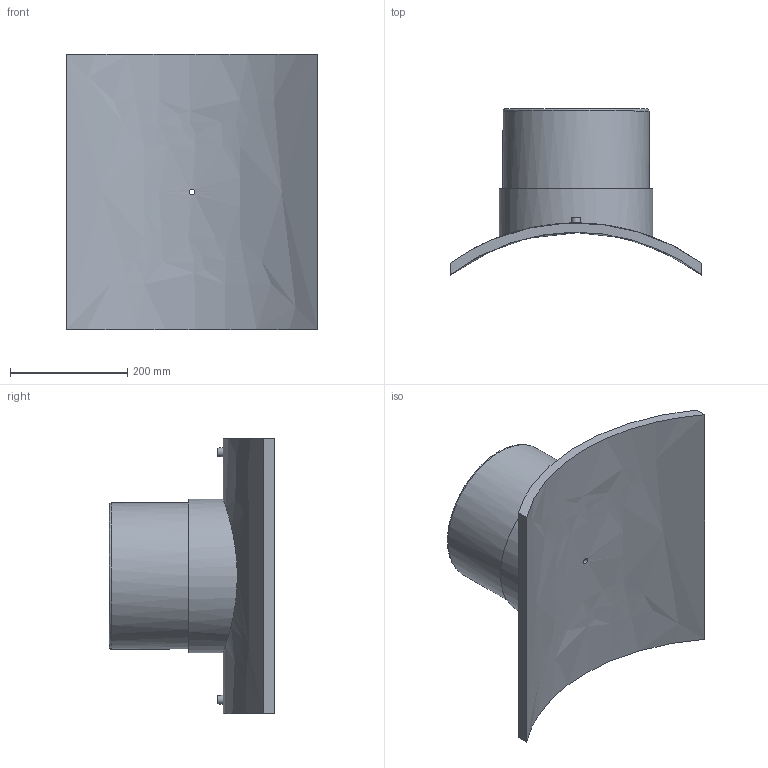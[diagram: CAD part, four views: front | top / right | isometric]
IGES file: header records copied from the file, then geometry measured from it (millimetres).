
Global section: file name: 495803710250T; native system: Autodesk Inventor 2019; preprocessor: unknown; author: KIM; date: 20240404.115613; units: millimetre
Bounding box: 430 x 283.51 x 470 mm (x, y, z)
Volume: 7422656.6 mm3; surface area: 765517 mm2
Topology: 1 solids, 1 shells, 29 faces, 60 edges, 43 vertices
Faces by surface type: bspline 29
